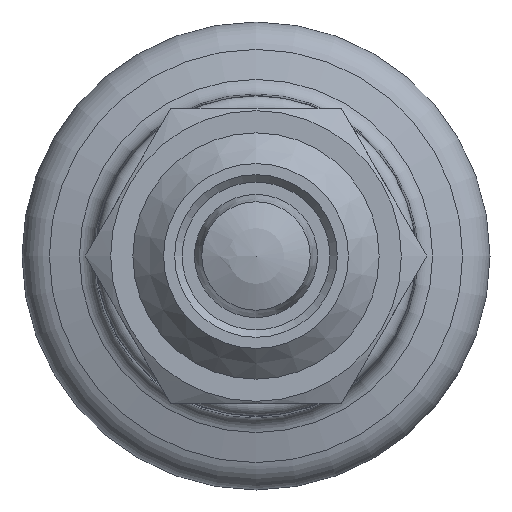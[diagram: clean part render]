
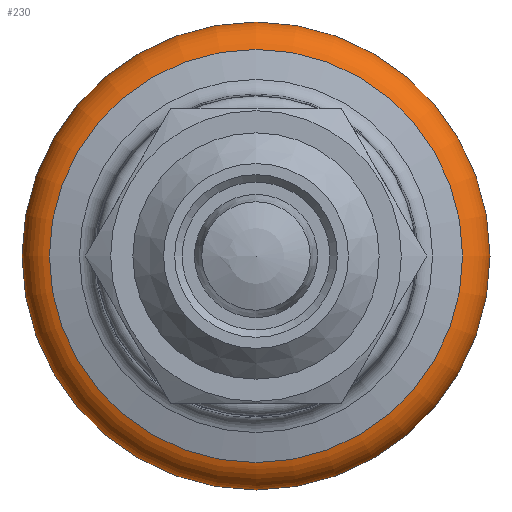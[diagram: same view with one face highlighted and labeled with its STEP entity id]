
A CAD part, front view. The second image highlights one B-rep face of the part: STEP entity #230.
In plain terms, the highlighted toroidal (fillet/blend) face has major radius 8 mm and minor radius 1.5 mm.
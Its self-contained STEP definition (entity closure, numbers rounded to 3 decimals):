
#230 = ADVANCED_FACE( '', ( #312, #313 ), #314, .T. );
#312 = FACE_OUTER_BOUND( '', #455, .T. );
#313 = FACE_OUTER_BOUND( '', #456, .T. );
#314 = TOROIDAL_SURFACE( '', #457, 8., 1.5 );
#455 = EDGE_LOOP( '', ( #636 ) );
#456 = EDGE_LOOP( '', ( #637 ) );
#457 = AXIS2_PLACEMENT_3D( '', #638, #639, #640 );
#636 = ORIENTED_EDGE( '', *, *, #741, .T. );
#637 = ORIENTED_EDGE( '', *, *, #742, .F. );
#638 = CARTESIAN_POINT( '', ( 0., 40.651, 0. ) );
#639 = DIRECTION( '', ( 0., -1., 0. ) );
#640 = DIRECTION( '', ( 0., 0., -1. ) );
#741 = EDGE_CURVE( '', #818, #818, #819, .T. );
#742 = EDGE_CURVE( '', #820, #820, #821, .T. );
#818 = VERTEX_POINT( '', #1022 );
#819 = CIRCLE( '', #1023, 9.5 );
#820 = VERTEX_POINT( '', #1024 );
#821 = CIRCLE( '', #1025, 8.388 );
#1022 = CARTESIAN_POINT( '', ( 0., 40.651, -9.5 ) );
#1023 = AXIS2_PLACEMENT_3D( '', #1104, #1105, #1106 );
#1024 = CARTESIAN_POINT( '', ( 0., 39.202, -8.388 ) );
#1025 = AXIS2_PLACEMENT_3D( '', #1107, #1108, #1109 );
#1104 = CARTESIAN_POINT( '', ( 0., 40.651, 0. ) );
#1105 = DIRECTION( '', ( 0., -1., 0. ) );
#1106 = DIRECTION( '', ( 0., 0., -1. ) );
#1107 = CARTESIAN_POINT( '', ( 0., 39.202, 0. ) );
#1108 = DIRECTION( '', ( 0., -1., 0. ) );
#1109 = DIRECTION( '', ( 0., 0., -1. ) );
